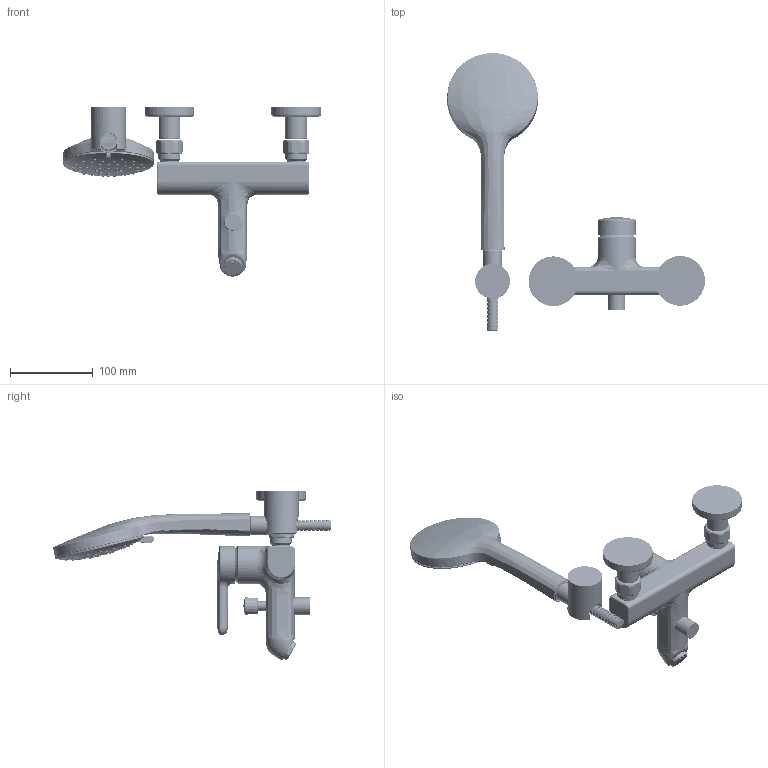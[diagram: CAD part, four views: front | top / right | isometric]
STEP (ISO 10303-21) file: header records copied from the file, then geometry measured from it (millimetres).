
FILE_DESCRIPTION((''),'2;1');
FILE_NAME('20472013_1','2021-09-01T12:35:20',('SN986'),(''),'CREO PARAMETRIC BY PTC INC, 2018500','CREO PARAMETRIC BY PTC INC, 2018500','');
FILE_SCHEMA(('CONFIG_CONTROL_DESIGN'));
Products named in the file (1): 20472013_1
Bounding box: 311.46 x 335.51 x 204.2 mm (x, y, z)
Volume: 746767.3 mm3; surface area: 199737.9 mm2
Topology: 5 solids, 5 shells, 3611 faces, 9053 edges, 5651 vertices
Faces by surface type: bspline 936, cone 754, cylinder 664, plane 528, torus 395, revolution 202, sphere 100, extrusion 32
Entity records: 254145 total; most frequent: CARTESIAN_POINT 179814, ORIENTED_EDGE 17896, DIRECTION 11209, EDGE_CURVE 8948, VERTEX_POINT 5651, B_SPLINE_CURVE_WITH_KNOTS 5074, AXIS2_PLACEMENT_3D 4426, EDGE_LOOP 4085
